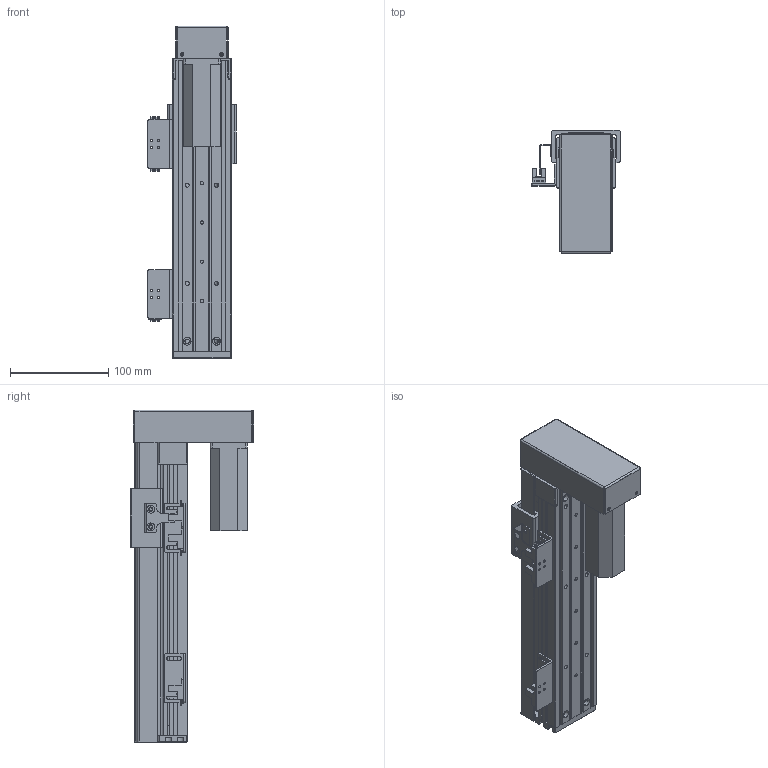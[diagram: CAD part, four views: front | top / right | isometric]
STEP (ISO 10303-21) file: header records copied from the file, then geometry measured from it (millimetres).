
FILE_DESCRIPTION (( 'STEP AP203' ), '1' );
FILE_NAME ('RY60FB-L1210-300-BK.SLDASM_150.step', '2021-02-23T00:55:17', ( '盈信电脑' ), ( '东莞市道滘镇水果街19号' ), 'SwSTEP 2.0', 'SolidWorks 2012', '' );
FILE_SCHEMA (( 'CONFIG_CONTROL_DESIGN' ));
Length unit declared in the file: millimetre
Products named in the file (15): RY60FB-L1210-300-BK.SLDASM_150; RY60FB-674嫖萇耀輸; RY60FB-狟殏萇儂假蚾啣; RY60FB-蛌殏萇儂欶; RY60FB转折电机端支撑座; RY80俋离覜茼え; 覜茼ん674; RY60FB-感应器674光电安装座; 侂狟100W; RY60FB綴裔啣; 滅袉蝶18-10; RY60FB-蛌殏奻裔-300-BK_150; RY60FB-臏賑輸; RY60FB-蛌殏菁釱-300-BK_150
Assembly tree (20 placements, depth 3):
  RY60FB-L1210-300-BK.SLDASM_150
    RY60FB-蛌殏菁釱-300-BK_150
    RY60FB-臏賑輸
    滅袉蝶18-10  x4
    RY60FB-蛌殏奻裔-300-BK_150
    侂狟100W
    RY60FB綴裔啣
    RY60FB转折电机端支撑座
    RY80俋离覜茼え
    RY60FB-674嫖萇耀輸
      RY60FB-感应器674光电安装座
      覜茼ん674  x2
    RY60FB-674嫖萇耀輸
      RY60FB-感应器674光电安装座
      覜茼ん674
    RY60FB-狟殏萇儂假蚾啣
    RY60FB-蛌殏萇儂欶
Bounding box: 90 x 125.45 x 338 mm (x, y, z)
Volume: 585812.1 mm3; surface area: 309317.8 mm2
Topology: 18 solids, 18 shells, 1065 faces, 2896 edges, 1840 vertices
Faces by surface type: plane 529, cylinder 431, cone 97, bspline 8
Entity records: 30389 total; most frequent: CARTESIAN_POINT 5949, DIRECTION 4776, ORIENTED_EDGE 4688, EDGE_CURVE 2344, AXIS2_PLACEMENT_3D 1655, VERTEX_POINT 1516, VECTOR 1466, LINE 1466
